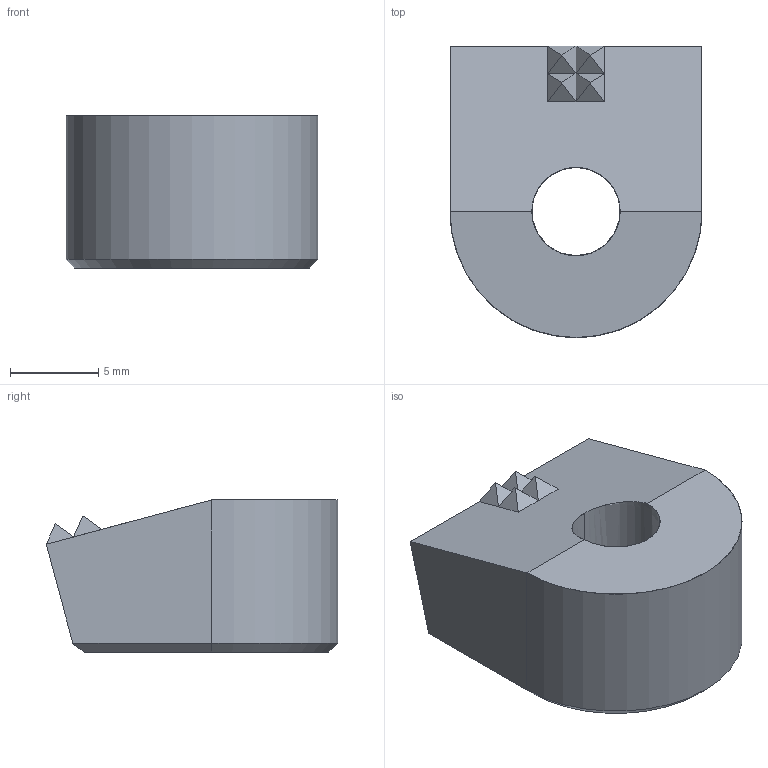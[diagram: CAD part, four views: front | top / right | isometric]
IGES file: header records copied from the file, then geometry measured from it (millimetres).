
Start section: SolidWorks IGES FILE using analytic representation for surfaces
Global section: file name: C:\WIX2\Positioning\3550\3550W002.igs; native system: SolidWorks 2003 by SolidWorks Corporation; preprocessor: Version 5.3; author: Joan; date: 030722.164434; units: millimetre
Bounding box: 14.28 x 16.51 x 8.62 mm (x, y, z)
Surface area: 904.9 mm2 (no closed solid volume)
Topology: 0 solids, 0 shells, 29 faces, 222 edges, 222 vertices
Faces by surface type: bspline 25, revolution 4
